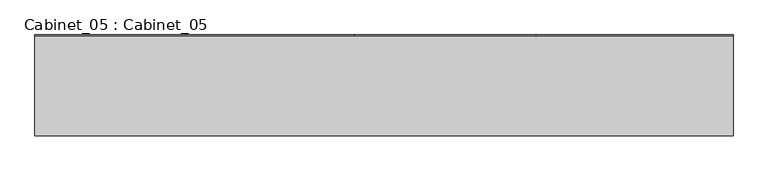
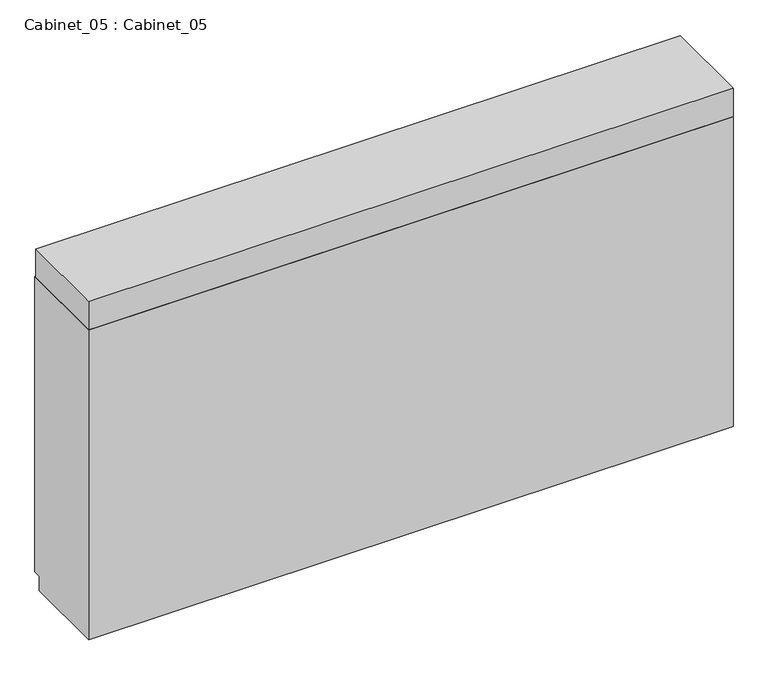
"""IFC4 building model written with IfcOpenShell, lengths in millimetres: furniture geometry, Cabinet_05 : Cabinet_05."""

from ifc_helpers import new_model, si_unit, frame, origin, place, context, project, spatial, polyline, outline, extrude, faceted_brep, source, transform, mapped, element, save


def cabinet_05_cabinet_05_b293a99e(model_context):
    return source(origin(), model_context, "Body", "SolidModel", [
        extrude(outline(polyline([(2503.0901674, -1181.1735117), (-2093.0019919, -1181.1735117), (-2093.0019919, -526.1735117), (2503.0901674, -526.1735117), (2503.0901674, -1181.1735117)])), frame((0.0, 0.0, 5739.9355322), z_axis=(0.0, 0.0, 1.0), x_axis=(1.0, 0.0, 0.0)), (0.0, 0.0, 1.0), 213.0879913),
        faceted_brep([(2503.0901674, -1181.1735117, 5739.9355322), (2503.0901674, -515.9170349, 5739.9355322), (1205.8050229, -515.9170349, 5739.9355322), (1205.8050229, -735.9170349, 5739.9355322), (7.5966269, -735.9170349, 5739.9355322), (7.5966269, -515.9170349, 5739.9355322), (-2093.0019919, -515.9170349, 5739.9355322), (-2093.0019919, -1181.1735117, 5739.9355322), (2503.0901674, -1181.1735117, 3400.0), (-2093.0019919, -1181.1735117, 3400.0), (-2093.0019919, -570.9170349, 3400.0), (2503.0901674, -570.9170349, 3400.0), (2503.0901674, -570.9170349, 3510.5785224), (2503.0901674, -515.9170349, 3510.5785224), (2471.4503095, -515.9170349, 3510.5785224), (2471.4503095, -515.9170349, 5725.0986114), (1859.8059259, -515.9170349, 5725.0986114), (1859.8059259, -515.9170349, 3510.5785224), (1824.8059259, -515.9170349, 3510.5785224), (1824.8059259, -515.9170349, 5725.0986114), (1271.9980081, -515.9170349, 5725.0986114), (1271.9980081, -515.9170349, 3510.5785224), (1205.8050229, -515.9170349, 3510.5785224), (1205.8050229, -515.9170349, 4265.016575), (7.5966269, -515.9170349, 4265.016575), (7.5966269, -515.9170349, 3510.5785224), (-76.6466916, -515.9170349, 3510.5785224), (-76.6466916, -515.9170349, 5725.0986114), (-734.6356166, -515.9170349, 5725.0986114), (-734.6356166, -515.9170349, 3510.5785224), (-764.6356166, -515.9170349, 3510.5785224), (-764.6356166, -515.9170349, 5725.0986114), (-1333.3944671, -515.9170349, 5725.0986114), (-1333.3944671, -515.9170349, 3510.5785224), (-1356.3138593, -515.9170349, 3510.5785224), (-1356.3138593, -515.9170349, 5725.0986114), (-2050.4670173, -515.9170349, 5725.0986114), (-2050.4670173, -515.9170349, 3510.5785224), (-2093.0019919, -515.9170349, 3510.5785224), (7.5966269, -515.9170349, 4302.4042335), (1205.8050229, -515.9170349, 4302.4042335), (-2093.0019919, -570.9170349, 3510.5785224), (1205.8050229, -570.9170349, 3510.5785224), (1271.9980081, -525.9170349, 3510.5785224), (1824.8059259, -525.9170349, 3510.5785224), (1859.8059259, -525.9170349, 3510.5785224), (2471.4503095, -525.9170349, 3510.5785224), (-2050.4670173, -525.9170349, 3510.5785224), (-1356.3138593, -525.9170349, 3510.5785224), (-1333.3944671, -525.9170349, 3510.5785224), (-764.6356166, -525.9170349, 3510.5785224), (-734.6356166, -525.9170349, 3510.5785224), (-76.6466916, -525.9170349, 3510.5785224), (7.5966269, -570.9170349, 3510.5785224), (7.5966269, -570.9170349, 3563.034743), (1205.8050229, -570.9170349, 3563.034743), (7.5966269, -570.9170349, 4265.016575), (1205.8050229, -570.9170349, 4265.016575), (1205.8050229, -570.9170349, 4154.4217964), (7.5966269, -570.9170349, 4154.4217964), (1205.8050229, -570.9170349, 3817.1960708), (7.5966269, -570.9170349, 3817.1960708), (7.5966269, -570.9170349, 3864.0592664), (1205.8050229, -570.9170349, 3864.0592664), (2471.4503095, -525.9170349, 5725.0986114), (1859.8059259, -525.9170349, 5725.0986114), (1824.8059259, -525.9170349, 5725.0986114), (1271.9980081, -525.9170349, 5725.0986114), (-1356.3138593, -525.9170349, 5725.0986114), (-2050.4670173, -525.9170349, 5725.0986114), (-764.6356166, -525.9170349, 5725.0986114), (-1333.3944671, -525.9170349, 5725.0986114), (-76.6466916, -525.9170349, 5725.0986114), (-734.6356166, -525.9170349, 5725.0986114), (7.5966269, -1046.1735117, 4154.4217964), (7.5966269, -1046.1735117, 3864.0592664), (7.5966269, -1046.1735117, 3817.1960708), (7.5966269, -1046.1735117, 3563.034743), (1205.8050229, -1046.1735117, 3563.034743), (1205.8050229, -1046.1735117, 3817.1960708), (1205.8050229, -1046.1735117, 3864.0592664), (1205.8050229, -1046.1735117, 4154.4217964), (1205.8050229, -1046.1735117, 4822.1523395), (7.5966269, -1046.1735117, 4822.1523395), (7.5966269, -735.9170349, 4822.1523395), (1205.8050229, -735.9170349, 4822.1523395), (7.5966269, -1046.1735117, 4302.4042335), (1205.8050229, -1046.1735117, 4302.4042335), (7.5966269, -735.9170349, 5133.7400051), (7.5966269, -1046.1735117, 5133.7400051), (7.5966269, -1046.1735117, 4840.5001775), (7.5966269, -735.9170349, 4840.5001775), (920.953723, -1046.1735117, 5133.7400051), (920.953723, -735.9170349, 5133.7400051), (920.953723, -1046.1735117, 4840.5001775), (920.953723, -735.9170349, 4840.5001775), (1187.7097655, -735.9170349, 5725.0986114), (945.8050229, -735.9170349, 5725.0986114), (945.8050229, -735.9170349, 5248.4059462), (1187.7097655, -735.9170349, 5248.4059462), (1187.7097655, -735.9170349, 5230.9743466), (945.8050229, -735.9170349, 5230.9743466), (945.8050229, -735.9170349, 4840.5001775), (1187.7097655, -735.9170349, 4840.5001775), (920.953723, -735.9170349, 5725.0986114), (485.8050229, -735.9170349, 5725.0986114), (485.8050229, -735.9170349, 5157.7257136), (920.953723, -735.9170349, 5157.7257136), (460.953723, -735.9170349, 5725.0986114), (25.8050229, -735.9170349, 5725.0986114), (25.8050229, -735.9170349, 5157.7257136), (460.953723, -735.9170349, 5157.7257136), (945.8050229, -855.9170349, 5230.9743466), (945.8050229, -855.9170349, 4840.5001775), (1187.7097655, -855.9170349, 5725.0986114), (945.8050229, -855.9170349, 5725.0986114), (945.8050229, -855.9170349, 5248.4059462), (1187.7097655, -855.9170349, 5248.4059462), (1187.7097655, -855.9170349, 5230.9743466), (1187.7097655, -855.9170349, 4840.5001775), (920.953723, -738.7970649, 5725.0986114), (485.8050229, -738.7970649, 5725.0986114), (485.8050229, -738.7970649, 5157.7257136), (920.953723, -738.7970649, 5157.7257136), (460.953723, -738.7970649, 5725.0986114), (25.8050229, -738.7970649, 5725.0986114), (25.8050229, -738.7970649, 5157.7257136), (460.953723, -738.7970649, 5157.7257136)], [[[0, 1, 2, 3, 4, 5, 6, 7]], [[8, 9, 10, 11]], [[1, 0, 8, 11, 12, 13]], [[1, 13, 14, 15, 16, 17, 18, 19, 20, 21, 22, 23, 24, 25, 26, 27, 28, 29, 30, 31, 32, 33, 34, 35, 36, 37, 38, 6, 5, 39, 40, 2]], [[7, 6, 38, 41, 10, 9]], [[0, 7, 9, 8]], [[13, 12, 42, 22, 21, 43, 44, 18, 17, 45, 46, 14]], [[41, 38, 37, 47, 48, 34, 33, 49, 50, 30, 29, 51, 52, 26, 25, 53]], [[12, 11, 10, 41, 53, 54, 55, 42]], [[56, 57, 58, 59]], [[60, 61, 62, 63]], [[15, 64, 65, 16]], [[16, 65, 45, 17]], [[65, 64, 46, 45]], [[64, 15, 14, 46]], [[19, 66, 67, 20]], [[20, 67, 43, 21]], [[67, 66, 44, 43]], [[66, 19, 18, 44]], [[35, 68, 69, 36]], [[36, 69, 47, 37]], [[69, 68, 48, 47]], [[68, 35, 34, 48]], [[31, 70, 71, 32]], [[32, 71, 49, 33]], [[71, 70, 50, 49]], [[70, 31, 30, 50]], [[27, 72, 73, 28]], [[28, 73, 51, 29]], [[73, 72, 52, 51]], [[72, 27, 26, 52]], [[23, 57, 56, 24]], [[24, 56, 59, 74, 75, 62, 61, 76, 77, 54, 53, 25]], [[57, 23, 22, 42, 55, 78, 79, 60, 63, 80, 81, 58]], [[79, 76, 61, 60]], [[77, 78, 55, 54]], [[76, 79, 78, 77]], [[81, 74, 59, 58]], [[75, 80, 63, 62]], [[74, 81, 80, 75]], [[82, 83, 84, 85]], [[39, 86, 87, 40]], [[86, 39, 5, 4, 88, 89, 90, 91, 84, 83]], [[83, 82, 87, 86]], [[40, 87, 82, 85, 3, 2]], [[92, 89, 88, 93]], [[90, 94, 95, 91]], [[89, 92, 94, 90]], [[94, 92, 93, 95]], [[84, 91, 95, 93, 88, 4, 3, 85], [96, 97, 98, 99], [100, 101, 102, 103], [104, 105, 106, 107], [108, 109, 110, 111]], [[112, 113, 102, 101]], [[114, 115, 97, 96]], [[116, 117, 99, 98]], [[115, 116, 98, 97]], [[115, 114, 117, 116]], [[117, 114, 96, 99]], [[118, 112, 101, 100]], [[113, 119, 103, 102]], [[112, 118, 119, 113]], [[119, 118, 100, 103]], [[120, 121, 105, 104]], [[122, 123, 107, 106]], [[121, 122, 106, 105]], [[121, 120, 123, 122]], [[123, 120, 104, 107]], [[124, 125, 109, 108]], [[126, 127, 111, 110]], [[125, 126, 110, 109]], [[125, 124, 127, 126]], [[127, 124, 108, 111]]]),
    ])


if __name__ == "__main__":
    model = new_model("IFC4")
    model_context = context("Model", 3, world=origin())
    ifc_project = project(units=[si_unit("LENGTHUNIT", "METRE", prefix="MILLI")], contexts=[model_context])
    site = spatial("IfcSite", under=ifc_project)
    building = spatial("IfcBuilding", under=site)
    placement = place(None, origin())
    cabinet_05_cabinet_05_shape = cabinet_05_cabinet_05_b293a99e(model_context)
    element("IfcFurniture", 1, ObjectType="Cabinet_05 : Cabinet_05", at=placement, inside=building, context=model_context, shape_type="MappedRepresentation", body=[
        mapped(cabinet_05_cabinet_05_shape, transform((0.0, 0.0, 0.0), x_axis=(1.0, 0.0, 0.0), y_axis=(0.0, 1.0, 0.0), z_axis=(0.0, 0.0, 1.0))),
    ])
    save(model, "model.ifc")
